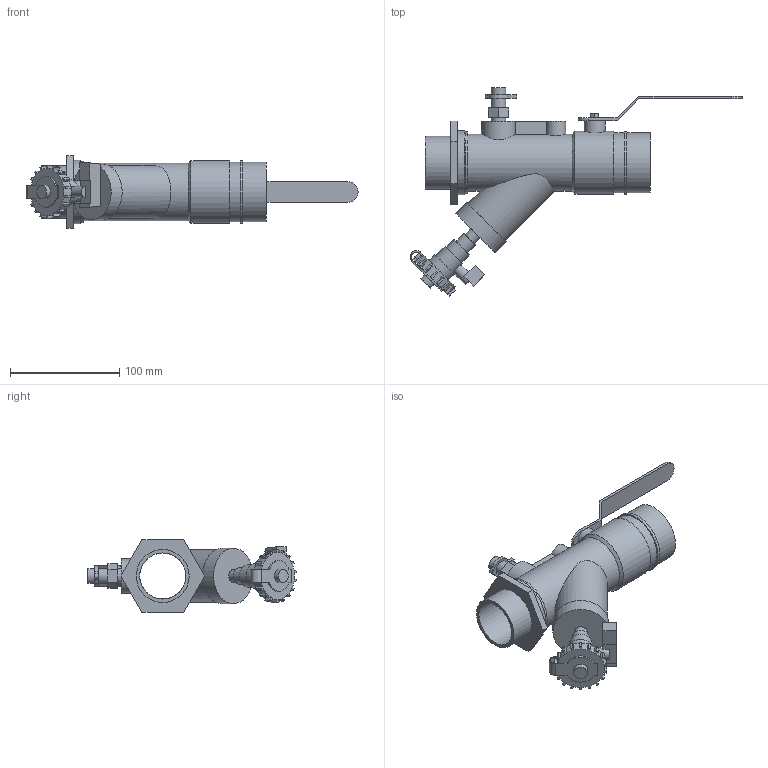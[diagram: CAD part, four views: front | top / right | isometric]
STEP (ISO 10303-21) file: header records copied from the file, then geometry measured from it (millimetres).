
FILE_DESCRIPTION(/* description */ ('VIC Y-STRAINER/BALL SERIES 78Y (FPT)','CAx-IF Rec.Pracs.---Representation and Presentation of Product Manufacturing Information (PMI)---4.0---2014-10-13'),/* implementation_level */ '2;1');
FILE_NAME(/* name */ 'C:\Users\kkamble\Desktop\extraction\OldVersions\Victaulic_IPS_Valve Ball Y Strainer Combination_Series 78Y (FPT)\Victaulic_IPS_Valve Ball Y Strainer Combination_Series 78Y (FPT)_01.5x01.25 (40x32).stp',/* time_stamp */ '2020-10-19T10:39:31+05:00',/* author */ ('kkamble'),/* organization */ ('Victaulic'),/* preprocessor_version */ 'ST-DEVELOPER v17.2',/* originating_system */ 'Autodesk Inventor 2019',/* authorisation */ '');
FILE_SCHEMA (('AP242_MANAGED_MODEL_BASED_3D_ENGINEERING_MIM_LF { 1 0 10303 442 1 1 4 }'));
Length unit declared in the file: inch
Products named in the file (1): 78Y-1.5x1.25
Bounding box: 303.43 x 190.56 x 66.04 mm (x, y, z)
Volume: 222540 mm3; surface area: 118775.3 mm2
Topology: 2 solids, 3 shells, 212 faces, 567 edges, 384 vertices
Faces by surface type: plane 141, cylinder 69, cone 2
Full cylindrical faces by diameter (mm): 10.16 x1, 11.887 x1, 12.565 x1, 12.7 x1, 13.462 x5, 15.24 x1, 19.05 x1, 20.32 x1, 22.86 x1, 25.4 x1, 27.94 x1, 41.402 x2, 42.164 x1, 43.18 x1, 48.26 x3, 50.8 x1, 52.324 x1, 54.61 x2, 56.515 x1, 57.15 x1, 57.404 x1, 58.42 x1
Entity records: 7605 total; most frequent: CARTESIAN_POINT 1897, DIRECTION 1179, ORIENTED_EDGE 1134, EDGE_CURVE 567, AXIS2_PLACEMENT_3D 417, VERTEX_POINT 384, LINE 345, VECTOR 345
